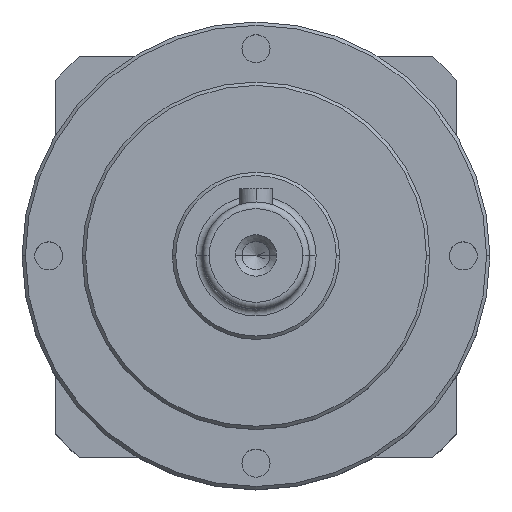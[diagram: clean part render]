
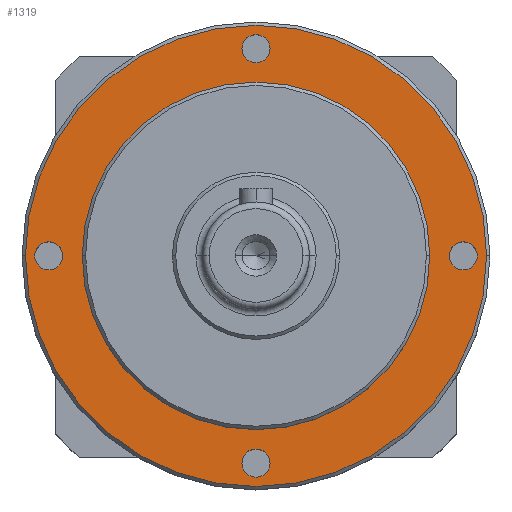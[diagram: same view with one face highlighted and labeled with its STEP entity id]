
A CAD part, top view. The second image highlights one B-rep face of the part: STEP entity #1319.
In plain terms, the highlighted planar face has unit normal (0, 0, 1).
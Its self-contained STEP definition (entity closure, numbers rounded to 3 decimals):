
#2 = DIRECTION ( 'NONE',  ( 1., 0., 0. ) ) ;
#26 = CARTESIAN_POINT ( 'NONE',  ( 31., 0., 15. ) ) ;
#102 = CARTESIAN_POINT ( 'NONE',  ( 2.1, -31., 15. ) ) ;
#106 = CIRCLE ( 'NONE', #1669, 34.5 ) ;
#111 = CARTESIAN_POINT ( 'NONE',  ( 0., -31., 15. ) ) ;
#122 = VERTEX_POINT ( 'NONE', #1573 ) ;
#172 = EDGE_CURVE ( 'NONE', #1332, #2899, #2116, .T. ) ;
#179 = ORIENTED_EDGE ( 'NONE', *, *, #2308, .F. ) ;
#191 = EDGE_CURVE ( 'NONE', #1713, #242, #257, .T. ) ;
#220 = FACE_BOUND ( 'NONE', #1005, .T. ) ;
#225 = CARTESIAN_POINT ( 'NONE',  ( 0., 0., 15. ) ) ;
#236 = ORIENTED_EDGE ( 'NONE', *, *, #1402, .T. ) ;
#237 = PLANE ( 'NONE',  #2736 ) ;
#242 = VERTEX_POINT ( 'NONE', #1185 ) ;
#254 = FACE_BOUND ( 'NONE', #592, .T. ) ;
#257 = CIRCLE ( 'NONE', #1150, 2.1 ) ;
#288 = DIRECTION ( 'NONE',  ( 0., 0., 1. ) ) ;
#303 = CARTESIAN_POINT ( 'NONE',  ( -31., 0., 15. ) ) ;
#339 = AXIS2_PLACEMENT_3D ( 'NONE', #960, #977, #2863 ) ;
#387 = AXIS2_PLACEMENT_3D ( 'NONE', #1450, #288, #519 ) ;
#390 = DIRECTION ( 'NONE',  ( 0., 0., 1. ) ) ;
#438 = CIRCLE ( 'NONE', #387, 2.1 ) ;
#449 = ORIENTED_EDGE ( 'NONE', *, *, #1099, .F. ) ;
#457 = EDGE_LOOP ( 'NONE', ( #2631, #944 ) ) ;
#460 = DIRECTION ( 'NONE',  ( 1., 0., 0. ) ) ;
#490 = AXIS2_PLACEMENT_3D ( 'NONE', #3047, #1615, #460 ) ;
#498 = EDGE_CURVE ( 'NONE', #122, #1992, #2681, .T. ) ;
#519 = DIRECTION ( 'NONE',  ( 1., 0., 0. ) ) ;
#542 = CARTESIAN_POINT ( 'NONE',  ( -33.1, 0., 15. ) ) ;
#564 = DIRECTION ( 'NONE',  ( 0., 0., 1. ) ) ;
#572 = DIRECTION ( 'NONE',  ( 1., 0., 0. ) ) ;
#574 = EDGE_LOOP ( 'NONE', ( #2877, #1197 ) ) ;
#592 = EDGE_LOOP ( 'NONE', ( #179, #449 ) ) ;
#593 = CARTESIAN_POINT ( 'NONE',  ( 0., -31., 15. ) ) ;
#603 = DIRECTION ( 'NONE',  ( 1., 0., 0. ) ) ;
#680 = CIRCLE ( 'NONE', #3019, 2.1 ) ;
#687 = CIRCLE ( 'NONE', #1373, 2.1 ) ;
#718 = ORIENTED_EDGE ( 'NONE', *, *, #172, .T. ) ;
#723 = DIRECTION ( 'NONE',  ( 0., 0., 1. ) ) ;
#777 = CARTESIAN_POINT ( 'NONE',  ( 34.5, 0., 15. ) ) ;
#784 = ORIENTED_EDGE ( 'NONE', *, *, #2610, .F. ) ;
#792 = DIRECTION ( 'NONE',  ( 1., 0., 0. ) ) ;
#795 = EDGE_CURVE ( 'NONE', #1346, #1076, #438, .T. ) ;
#819 = ORIENTED_EDGE ( 'NONE', *, *, #1204, .F. ) ;
#881 = FACE_OUTER_BOUND ( 'NONE', #2991, .T. ) ;
#893 = CARTESIAN_POINT ( 'NONE',  ( 31., 0., 15. ) ) ;
#931 = VERTEX_POINT ( 'NONE', #102 ) ;
#942 = DIRECTION ( 'NONE',  ( 1., 0., 0. ) ) ;
#944 = ORIENTED_EDGE ( 'NONE', *, *, #1585, .F. ) ;
#960 = CARTESIAN_POINT ( 'NONE',  ( 0., 0., 15. ) ) ;
#977 = DIRECTION ( 'NONE',  ( 0., 0., 1. ) ) ;
#1005 = EDGE_LOOP ( 'NONE', ( #1760, #784 ) ) ;
#1023 = DIRECTION ( 'NONE',  ( 0., 0., 1. ) ) ;
#1076 = VERTEX_POINT ( 'NONE', #1546 ) ;
#1099 = EDGE_CURVE ( 'NONE', #2028, #931, #687, .T. ) ;
#1138 = DIRECTION ( 'NONE',  ( 1., 0., 0. ) ) ;
#1150 = AXIS2_PLACEMENT_3D ( 'NONE', #26, #723, #942 ) ;
#1185 = CARTESIAN_POINT ( 'NONE',  ( 28.9, 0., 15. ) ) ;
#1197 = ORIENTED_EDGE ( 'NONE', *, *, #3043, .F. ) ;
#1204 = EDGE_CURVE ( 'NONE', #1076, #1346, #1892, .T. ) ;
#1222 = AXIS2_PLACEMENT_3D ( 'NONE', #2468, #1023, #792 ) ;
#1319 = ADVANCED_FACE ( 'NONE', ( #881, #220, #2500, #2112, #254, #2679 ), #237, .T. ) ;
#1332 = VERTEX_POINT ( 'NONE', #1874 ) ;
#1346 = VERTEX_POINT ( 'NONE', #1861 ) ;
#1347 = DIRECTION ( 'NONE',  ( 1., 0., 0. ) ) ;
#1373 = AXIS2_PLACEMENT_3D ( 'NONE', #593, #2236, #603 ) ;
#1402 = EDGE_CURVE ( 'NONE', #2899, #1332, #106, .T. ) ;
#1447 = CARTESIAN_POINT ( 'NONE',  ( 0., 0., 15. ) ) ;
#1450 = CARTESIAN_POINT ( 'NONE',  ( 0., 31., 15. ) ) ;
#1546 = CARTESIAN_POINT ( 'NONE',  ( 2.1, 31., 15. ) ) ;
#1573 = CARTESIAN_POINT ( 'NONE',  ( -26., 0., 15. ) ) ;
#1583 = ORIENTED_EDGE ( 'NONE', *, *, #795, .F. ) ;
#1585 = EDGE_CURVE ( 'NONE', #2826, #1801, #1592, .T. ) ;
#1592 = CIRCLE ( 'NONE', #1222, 2.1 ) ;
#1615 = DIRECTION ( 'NONE',  ( 0., 0., 1. ) ) ;
#1659 = DIRECTION ( 'NONE',  ( 0., 0., 1. ) ) ;
#1669 = AXIS2_PLACEMENT_3D ( 'NONE', #1447, #1659, #2855 ) ;
#1673 = AXIS2_PLACEMENT_3D ( 'NONE', #303, #564, #2900 ) ;
#1713 = VERTEX_POINT ( 'NONE', #2255 ) ;
#1760 = ORIENTED_EDGE ( 'NONE', *, *, #498, .F. ) ;
#1785 = CARTESIAN_POINT ( 'NONE',  ( 0., 0., 15. ) ) ;
#1801 = VERTEX_POINT ( 'NONE', #2822 ) ;
#1861 = CARTESIAN_POINT ( 'NONE',  ( -2.1, 31., 15. ) ) ;
#1874 = CARTESIAN_POINT ( 'NONE',  ( -34.5, 0., 15. ) ) ;
#1892 = CIRCLE ( 'NONE', #2579, 2.1 ) ;
#1963 = CARTESIAN_POINT ( 'NONE',  ( -2.1, -31., 15. ) ) ;
#1976 = AXIS2_PLACEMENT_3D ( 'NONE', #893, #2985, #3016 ) ;
#1992 = VERTEX_POINT ( 'NONE', #2701 ) ;
#2028 = VERTEX_POINT ( 'NONE', #1963 ) ;
#2048 = DIRECTION ( 'NONE',  ( 0., 0., 1. ) ) ;
#2088 = CIRCLE ( 'NONE', #490, 26. ) ;
#2112 = FACE_BOUND ( 'NONE', #574, .T. ) ;
#2116 = CIRCLE ( 'NONE', #339, 34.5 ) ;
#2153 = CIRCLE ( 'NONE', #1976, 2.1 ) ;
#2199 = DIRECTION ( 'NONE',  ( 0., 0., 1. ) ) ;
#2236 = DIRECTION ( 'NONE',  ( 0., 0., 1. ) ) ;
#2255 = CARTESIAN_POINT ( 'NONE',  ( 33.1, 0., 15. ) ) ;
#2268 = CARTESIAN_POINT ( 'NONE',  ( 0., 31., 15. ) ) ;
#2308 = EDGE_CURVE ( 'NONE', #931, #2028, #680, .T. ) ;
#2318 = DIRECTION ( 'NONE',  ( 0., 0., 1. ) ) ;
#2468 = CARTESIAN_POINT ( 'NONE',  ( -31., 0., 15. ) ) ;
#2500 = FACE_BOUND ( 'NONE', #2892, .T. ) ;
#2579 = AXIS2_PLACEMENT_3D ( 'NONE', #2268, #2048, #1138 ) ;
#2610 = EDGE_CURVE ( 'NONE', #1992, #122, #2088, .T. ) ;
#2631 = ORIENTED_EDGE ( 'NONE', *, *, #2793, .F. ) ;
#2679 = FACE_BOUND ( 'NONE', #457, .T. ) ;
#2681 = CIRCLE ( 'NONE', #2815, 26. ) ;
#2701 = CARTESIAN_POINT ( 'NONE',  ( 26., 0., 15. ) ) ;
#2736 = AXIS2_PLACEMENT_3D ( 'NONE', #225, #2318, #2 ) ;
#2793 = EDGE_CURVE ( 'NONE', #1801, #2826, #2988, .T. ) ;
#2815 = AXIS2_PLACEMENT_3D ( 'NONE', #1785, #390, #1347 ) ;
#2822 = CARTESIAN_POINT ( 'NONE',  ( -28.9, 0., 15. ) ) ;
#2826 = VERTEX_POINT ( 'NONE', #542 ) ;
#2855 = DIRECTION ( 'NONE',  ( 1., 0., 0. ) ) ;
#2863 = DIRECTION ( 'NONE',  ( 1., 0., 0. ) ) ;
#2877 = ORIENTED_EDGE ( 'NONE', *, *, #191, .F. ) ;
#2892 = EDGE_LOOP ( 'NONE', ( #819, #1583 ) ) ;
#2899 = VERTEX_POINT ( 'NONE', #777 ) ;
#2900 = DIRECTION ( 'NONE',  ( 1., 0., 0. ) ) ;
#2985 = DIRECTION ( 'NONE',  ( 0., 0., 1. ) ) ;
#2988 = CIRCLE ( 'NONE', #1673, 2.1 ) ;
#2991 = EDGE_LOOP ( 'NONE', ( #718, #236 ) ) ;
#3016 = DIRECTION ( 'NONE',  ( 1., 0., 0. ) ) ;
#3019 = AXIS2_PLACEMENT_3D ( 'NONE', #111, #2199, #572 ) ;
#3043 = EDGE_CURVE ( 'NONE', #242, #1713, #2153, .T. ) ;
#3047 = CARTESIAN_POINT ( 'NONE',  ( 0., 0., 15. ) ) ;
